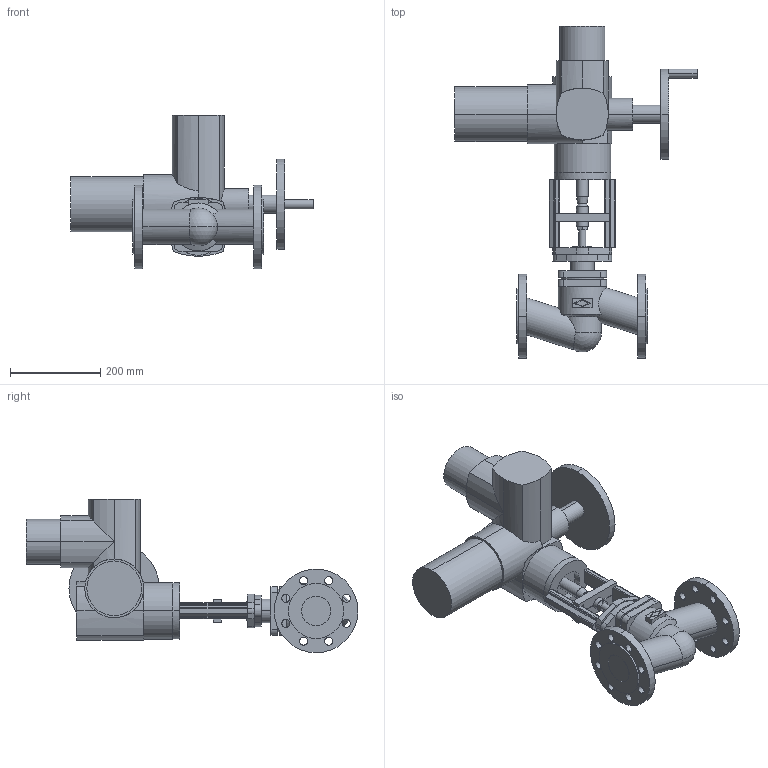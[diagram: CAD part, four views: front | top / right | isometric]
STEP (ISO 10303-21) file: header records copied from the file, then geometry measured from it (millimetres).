
FILE_DESCRIPTION(('OneSpaceDesigner STEP Export'),'2;1');
FILE_NAME('c000003108.stp','2007-01-09T11:45:11',(''),(''),'OneSpace Designer STEP processor for AP214 (Solid Model)','OneSpace Designer 14.00B 27-May-2006 (C) CoCreate Software GmbH','');
FILE_SCHEMA(('AUTOMOTIVE_DESIGN { 1 0 10303 214 1 1 1 1 }'));
Length unit declared in the file: millimetre
Products named in the file (3): 1; 2; 3
Bounding box: 536 x 734.5 x 339.5 mm (x, y, z)
Volume: 13889419.8 mm3; surface area: 799335.3 mm2
Topology: 3 solids, 3 shells, 285 faces, 730 edges, 466 vertices
Faces by surface type: cylinder 152, plane 125, cone 6, sphere 2
Entity records: 8449 total; most frequent: CARTESIAN_POINT 1929, ORIENTED_EDGE 1456, DIRECTION 1203, EDGE_CURVE 728, VERTEX_POINT 466, AXIS2_PLACEMENT_3D 409, VECTOR 385, LINE 385
